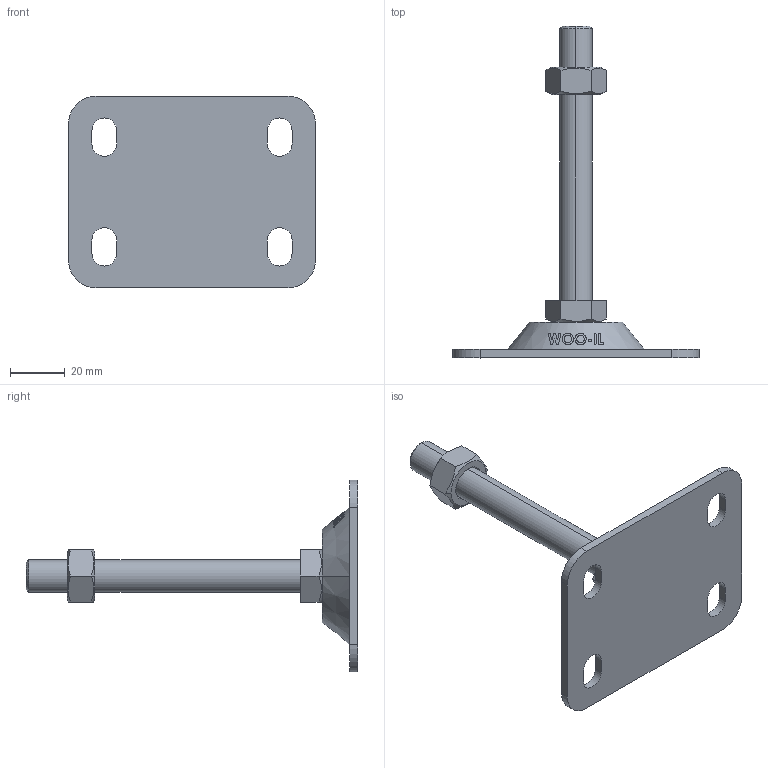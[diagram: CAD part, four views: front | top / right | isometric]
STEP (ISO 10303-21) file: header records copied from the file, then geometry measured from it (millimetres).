
FILE_DESCRIPTION (( 'STEP AP214' ), '1' );
FILE_NAME ('FABL7090-M12-100.step', '2021-03-28T23:50:40', ( '' ), ( '' ), 'SwSTEP 2.0', 'SolidWorks 2019', '' );
FILE_SCHEMA (( 'AUTOMOTIVE_DESIGN' ));
Length unit declared in the file: millimetre
Products named in the file (2): FABL7090-M12-100
Bounding box: 90 x 121 x 70 mm (x, y, z)
Volume: 47043.9 mm3; surface area: 19367.6 mm2
Topology: 2 solids, 2 shells, 142 faces, 369 edges, 242 vertices
Faces by surface type: plane 58, cylinder 44, cone 22, bspline 18
Entity records: 5925 total; most frequent: CARTESIAN_POINT 2627, ORIENTED_EDGE 738, DIRECTION 553, EDGE_CURVE 369, VERTEX_POINT 242, AXIS2_PLACEMENT_3D 198, EDGE_LOOP 163, VECTOR 157
